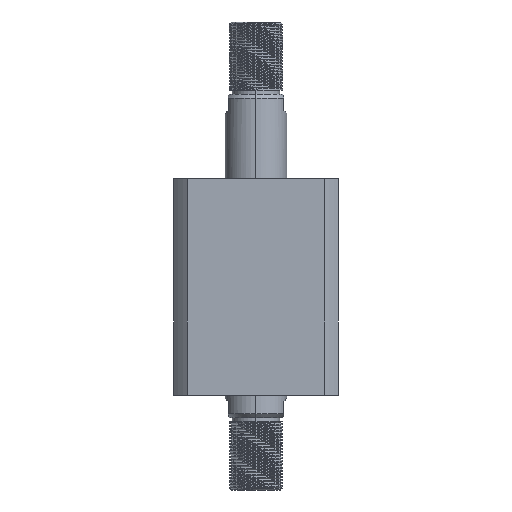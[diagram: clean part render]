
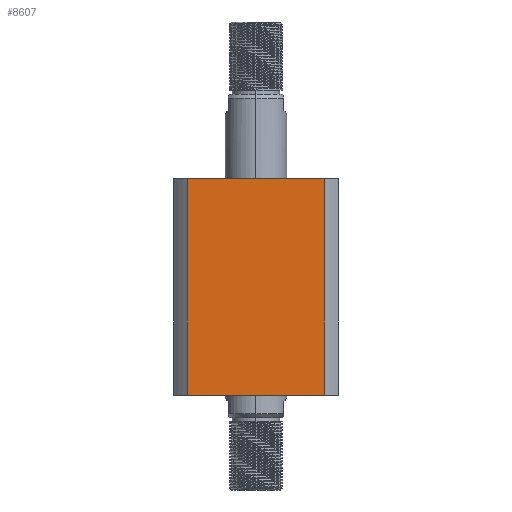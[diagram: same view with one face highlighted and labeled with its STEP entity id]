
A CAD part, left-side view. The second image highlights one B-rep face of the part: STEP entity #8607.
In plain terms, the highlighted planar face has unit normal (-1, 0, 0).
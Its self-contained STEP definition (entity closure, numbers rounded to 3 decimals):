
#1233 = VECTOR ( 'NONE', #7924, 1000. ) ;
#1295 = CARTESIAN_POINT ( 'NONE',  ( -40., 33.226, 52.5 ) ) ;
#1370 = EDGE_CURVE ( 'NONE', #10950, #4482, #4932, .T. ) ;
#1955 = DIRECTION ( 'NONE',  ( 0., 0., -1. ) ) ;
#2301 = LINE ( 'NONE', #5205, #1233 ) ;
#2503 = CARTESIAN_POINT ( 'NONE',  ( -40., -33.226, 52.5 ) ) ;
#4482 = VERTEX_POINT ( 'NONE', #2503 ) ;
#4533 = VECTOR ( 'NONE', #12163, 1000. ) ;
#4717 = CARTESIAN_POINT ( 'NONE',  ( -40., 33.226, -52.5 ) ) ;
#4932 = LINE ( 'NONE', #1295, #4533 ) ;
#5205 = CARTESIAN_POINT ( 'NONE',  ( -40., -33.226, 52.5 ) ) ;
#5940 = EDGE_LOOP ( 'NONE', ( #14185, #16671, #6345, #6009 ) ) ;
#6009 = ORIENTED_EDGE ( 'NONE', *, *, #11237, .T. ) ;
#6085 = EDGE_CURVE ( 'NONE', #12578, #6861, #11922, .T. ) ;
#6345 = ORIENTED_EDGE ( 'NONE', *, *, #1370, .F. ) ;
#6560 = FACE_OUTER_BOUND ( 'NONE', #5940, .T. ) ;
#6698 = CARTESIAN_POINT ( 'NONE',  ( -40., 33.226, 52.5 ) ) ;
#6861 = VERTEX_POINT ( 'NONE', #6930 ) ;
#6930 = CARTESIAN_POINT ( 'NONE',  ( -40., -33.226, -52.5 ) ) ;
#7924 = DIRECTION ( 'NONE',  ( 0., 0., -1. ) ) ;
#8607 = ADVANCED_FACE ( 'NONE', ( #6560 ), #10980, .F. ) ;
#10094 = CARTESIAN_POINT ( 'NONE',  ( -40., 33.226, 52.5 ) ) ;
#10171 = DIRECTION ( 'NONE',  ( 0., -1., 0. ) ) ;
#10347 = EDGE_CURVE ( 'NONE', #4482, #6861, #2301, .T. ) ;
#10950 = VERTEX_POINT ( 'NONE', #15868 ) ;
#10980 = PLANE ( 'NONE',  #15309 ) ;
#11237 = EDGE_CURVE ( 'NONE', #10950, #12578, #13555, .T. ) ;
#11922 = LINE ( 'NONE', #4717, #15521 ) ;
#12163 = DIRECTION ( 'NONE',  ( 0., -1., 0. ) ) ;
#12279 = VECTOR ( 'NONE', #1955, 1000. ) ;
#12578 = VERTEX_POINT ( 'NONE', #16667 ) ;
#13555 = LINE ( 'NONE', #10094, #12279 ) ;
#14185 = ORIENTED_EDGE ( 'NONE', *, *, #6085, .T. ) ;
#14846 = DIRECTION ( 'NONE',  ( 1., 0., 0. ) ) ;
#14968 = DIRECTION ( 'NONE',  ( 0., 1., 0. ) ) ;
#15309 = AXIS2_PLACEMENT_3D ( 'NONE', #6698, #14846, #14968 ) ;
#15521 = VECTOR ( 'NONE', #10171, 1000. ) ;
#15868 = CARTESIAN_POINT ( 'NONE',  ( -40., 33.226, 52.5 ) ) ;
#16667 = CARTESIAN_POINT ( 'NONE',  ( -40., 33.226, -52.5 ) ) ;
#16671 = ORIENTED_EDGE ( 'NONE', *, *, #10347, .F. ) ;
